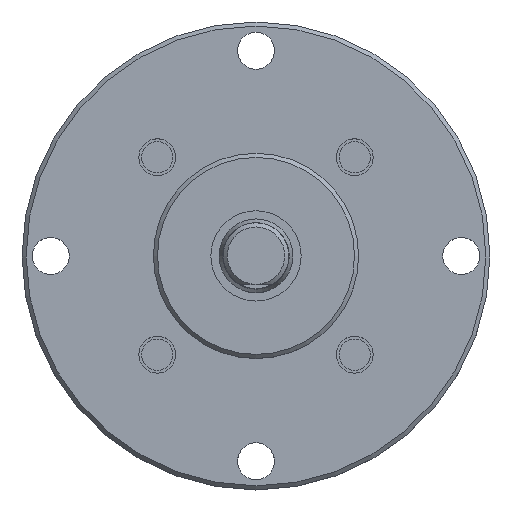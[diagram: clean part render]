
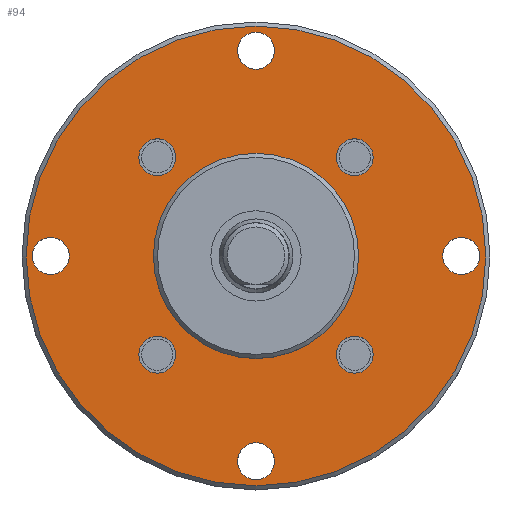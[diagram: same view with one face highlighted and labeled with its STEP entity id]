
A CAD part, top view. The second image highlights one B-rep face of the part: STEP entity #94.
In plain terms, the highlighted planar face has unit normal (0, 0, 1).
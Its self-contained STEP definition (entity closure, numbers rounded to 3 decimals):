
#67=PLANE('',#708);
#94=ADVANCED_FACE('',(#183,#184,#185,#186,#187,#188,#189,#190,#191,#192),
#67,.T.);
#183=FACE_BOUND('',#285,.T.);
#184=FACE_BOUND('',#286,.T.);
#185=FACE_BOUND('',#287,.T.);
#186=FACE_BOUND('',#288,.T.);
#187=FACE_BOUND('',#289,.T.);
#188=FACE_BOUND('',#290,.T.);
#189=FACE_BOUND('',#291,.T.);
#190=FACE_BOUND('',#292,.T.);
#191=FACE_BOUND('',#293,.T.);
#192=FACE_BOUND('',#294,.T.);
#285=EDGE_LOOP('',(#396));
#286=EDGE_LOOP('',(#397));
#287=EDGE_LOOP('',(#398));
#288=EDGE_LOOP('',(#399));
#289=EDGE_LOOP('',(#400));
#290=EDGE_LOOP('',(#401));
#291=EDGE_LOOP('',(#402));
#292=EDGE_LOOP('',(#403));
#293=EDGE_LOOP('',(#404));
#294=EDGE_LOOP('',(#405));
#396=ORIENTED_EDGE('',*,*,#575,.T.);
#397=ORIENTED_EDGE('',*,*,#576,.T.);
#398=ORIENTED_EDGE('',*,*,#577,.T.);
#399=ORIENTED_EDGE('',*,*,#578,.T.);
#400=ORIENTED_EDGE('',*,*,#579,.F.);
#401=ORIENTED_EDGE('',*,*,#580,.F.);
#402=ORIENTED_EDGE('',*,*,#581,.F.);
#403=ORIENTED_EDGE('',*,*,#582,.F.);
#404=ORIENTED_EDGE('',*,*,#583,.T.);
#405=ORIENTED_EDGE('',*,*,#569,.T.);
#511=VERTEX_POINT('',#1037);
#517=VERTEX_POINT('',#1051);
#518=VERTEX_POINT('',#1053);
#519=VERTEX_POINT('',#1055);
#520=VERTEX_POINT('',#1057);
#521=VERTEX_POINT('',#1059);
#522=VERTEX_POINT('',#1061);
#523=VERTEX_POINT('',#1063);
#524=VERTEX_POINT('',#1065);
#525=VERTEX_POINT('',#1067);
#569=EDGE_CURVE('',#511,#511,#630,.T.);
#575=EDGE_CURVE('',#517,#517,#636,.T.);
#576=EDGE_CURVE('',#518,#518,#637,.T.);
#577=EDGE_CURVE('',#519,#519,#638,.T.);
#578=EDGE_CURVE('',#520,#520,#639,.T.);
#579=EDGE_CURVE('',#521,#521,#640,.T.);
#580=EDGE_CURVE('',#522,#522,#641,.T.);
#581=EDGE_CURVE('',#523,#523,#642,.T.);
#582=EDGE_CURVE('',#524,#524,#643,.T.);
#583=EDGE_CURVE('',#525,#525,#644,.T.);
#630=CIRCLE('',#691,12.5);
#636=CIRCLE('',#699,2.25);
#637=CIRCLE('',#700,2.25);
#638=CIRCLE('',#701,2.25);
#639=CIRCLE('',#702,2.25);
#640=CIRCLE('',#703,2.25);
#641=CIRCLE('',#704,2.25);
#642=CIRCLE('',#705,2.25);
#643=CIRCLE('',#706,2.25);
#644=CIRCLE('',#707,28.);
#691=AXIS2_PLACEMENT_3D('',#1036,#816,#817);
#699=AXIS2_PLACEMENT_3D('',#1050,#832,#833);
#700=AXIS2_PLACEMENT_3D('',#1052,#834,#835);
#701=AXIS2_PLACEMENT_3D('',#1054,#836,#837);
#702=AXIS2_PLACEMENT_3D('',#1056,#838,#839);
#703=AXIS2_PLACEMENT_3D('',#1058,#840,#841);
#704=AXIS2_PLACEMENT_3D('',#1060,#842,#843);
#705=AXIS2_PLACEMENT_3D('',#1062,#844,#845);
#706=AXIS2_PLACEMENT_3D('',#1064,#846,#847);
#707=AXIS2_PLACEMENT_3D('',#1066,#848,#849);
#708=AXIS2_PLACEMENT_3D('',#1068,#850,#851);
#816=DIRECTION('',(0.,0.,-1.));
#817=DIRECTION('',(1.,0.,0.));
#832=DIRECTION('',(0.,0.,-1.));
#833=DIRECTION('',(0.,1.,0.));
#834=DIRECTION('',(0.,0.,-1.));
#835=DIRECTION('',(1.,0.,0.));
#836=DIRECTION('',(0.,0.,-1.));
#837=DIRECTION('',(0.,-1.,0.));
#838=DIRECTION('',(0.,0.,-1.));
#839=DIRECTION('',(-1.,0.,0.));
#840=DIRECTION('',(0.,0.,1.));
#841=DIRECTION('',(0.,-1.,0.));
#842=DIRECTION('',(0.,0.,1.));
#843=DIRECTION('',(-1.,0.,0.));
#844=DIRECTION('',(0.,0.,1.));
#845=DIRECTION('',(0.,1.,0.));
#846=DIRECTION('',(0.,0.,1.));
#847=DIRECTION('',(1.,0.,0.));
#848=DIRECTION('',(0.,0.,1.));
#849=DIRECTION('',(1.,0.,0.));
#850=DIRECTION('',(0.,0.,1.));
#851=DIRECTION('',(1.,0.,0.));
#1036=CARTESIAN_POINT('',(0.,0.,0.));
#1037=CARTESIAN_POINT('',(12.5,0.,0.));
#1050=CARTESIAN_POINT('',(25.,0.,0.));
#1051=CARTESIAN_POINT('',(25.,2.25,0.));
#1052=CARTESIAN_POINT('',(0.,-25.,0.));
#1053=CARTESIAN_POINT('',(2.25,-25.,0.));
#1054=CARTESIAN_POINT('',(-25.,0.,0.));
#1055=CARTESIAN_POINT('',(-25.,-2.25,0.));
#1056=CARTESIAN_POINT('',(0.,25.,0.));
#1057=CARTESIAN_POINT('',(-2.25,25.,0.));
#1058=CARTESIAN_POINT('',(12.021,12.021,0.));
#1059=CARTESIAN_POINT('',(12.021,9.771,0.));
#1060=CARTESIAN_POINT('',(12.021,-12.021,0.));
#1061=CARTESIAN_POINT('',(9.771,-12.021,0.));
#1062=CARTESIAN_POINT('',(-12.021,-12.021,0.));
#1063=CARTESIAN_POINT('',(-12.021,-9.771,0.));
#1064=CARTESIAN_POINT('',(-12.021,12.021,0.));
#1065=CARTESIAN_POINT('',(-9.771,12.021,0.));
#1066=CARTESIAN_POINT('',(0.,0.,0.));
#1067=CARTESIAN_POINT('',(28.,0.,0.));
#1068=CARTESIAN_POINT('',(0.,0.,0.));
